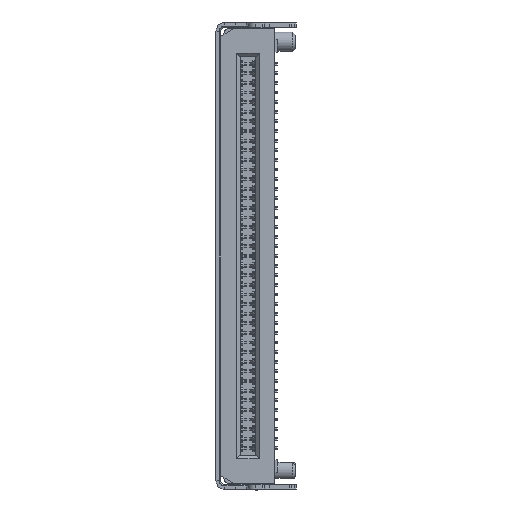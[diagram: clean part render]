
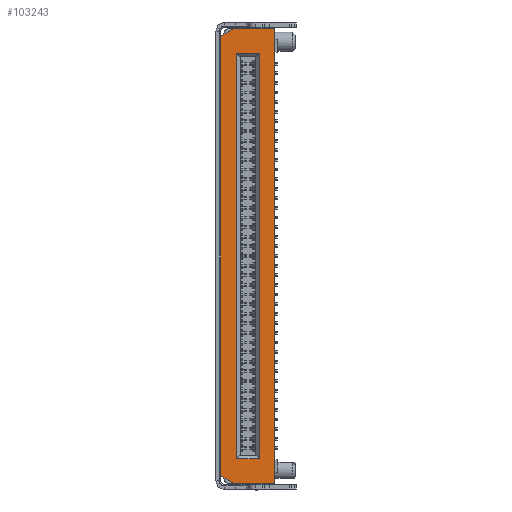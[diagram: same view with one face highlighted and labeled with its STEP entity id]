
A CAD part, left-side view. The second image highlights one B-rep face of the part: STEP entity #103243.
In plain terms, the highlighted planar face has unit normal (-1, 0, 0).
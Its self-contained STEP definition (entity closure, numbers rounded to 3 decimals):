
#1860=DIRECTION('',(0.,0.,1.));
#1861=VECTOR('',#1860,27.4);
#1862=CARTESIAN_POINT('',(-4.4,1.075,-13.7));
#1863=LINE('',#1862,#1861);
#15625=DIRECTION('',(0.,-0.848,0.53));
#15626=VECTOR('',#15625,0.943);
#15627=CARTESIAN_POINT('',(-4.4,1.075,13.7));
#15628=LINE('',#15627,#15626);
#15629=DIRECTION('',(0.,0.848,0.53));
#15630=VECTOR('',#15629,0.943);
#15631=CARTESIAN_POINT('',(-4.4,0.275,-14.2));
#15632=LINE('',#15631,#15630);
#15657=DIRECTION('',(0.,-1.,0.));
#15658=VECTOR('',#15657,2.575);
#15659=CARTESIAN_POINT('',(-4.4,0.275,14.2));
#15660=LINE('',#15659,#15658);
#15699=DIRECTION('',(0.,0.,-1.));
#15700=VECTOR('',#15699,28.4);
#15701=CARTESIAN_POINT('',(-4.4,-2.3,14.2));
#15702=LINE('',#15701,#15700);
#15811=DIRECTION('',(0.,1.,0.));
#15812=VECTOR('',#15811,2.575);
#15813=CARTESIAN_POINT('',(-4.4,-2.3,-14.2));
#15814=LINE('',#15813,#15812);
#19026=DIRECTION('',(0.,0.,-1.));
#19027=VECTOR('',#19026,25.3);
#19028=CARTESIAN_POINT('',(-4.4,0.075,12.65));
#19029=LINE('',#19028,#19027);
#19034=DIRECTION('',(0.,-1.,0.));
#19035=VECTOR('',#19034,1.4);
#19036=CARTESIAN_POINT('',(-4.4,0.075,-12.65));
#19037=LINE('',#19036,#19035);
#19050=DIRECTION('',(0.,0.,1.));
#19051=VECTOR('',#19050,25.3);
#19052=CARTESIAN_POINT('',(-4.4,-1.325,-12.65));
#19053=LINE('',#19052,#19051);
#19058=DIRECTION('',(0.,1.,0.));
#19059=VECTOR('',#19058,1.4);
#19060=CARTESIAN_POINT('',(-4.4,-1.325,12.65));
#19061=LINE('',#19060,#19059);
#63462=CARTESIAN_POINT('',(-4.4,1.075,-13.7));
#63463=CARTESIAN_POINT('',(-4.4,1.075,13.7));
#63464=VERTEX_POINT('',#63462);
#63465=VERTEX_POINT('',#63463);
#63466=CARTESIAN_POINT('',(-4.4,0.275,-14.2));
#63467=VERTEX_POINT('',#63466);
#63468=CARTESIAN_POINT('',(-4.4,-2.3,-14.2));
#63469=VERTEX_POINT('',#63468);
#63470=CARTESIAN_POINT('',(-4.4,-2.3,14.2));
#63471=VERTEX_POINT('',#63470);
#63472=CARTESIAN_POINT('',(-4.4,0.275,14.2));
#63473=VERTEX_POINT('',#63472);
#63474=CARTESIAN_POINT('',(-4.4,0.075,12.65));
#63475=CARTESIAN_POINT('',(-4.4,0.075,-12.65));
#63476=VERTEX_POINT('',#63474);
#63477=VERTEX_POINT('',#63475);
#63478=CARTESIAN_POINT('',(-4.4,-1.325,12.65));
#63479=VERTEX_POINT('',#63478);
#63480=CARTESIAN_POINT('',(-4.4,-1.325,-12.65));
#63481=VERTEX_POINT('',#63480);
#103216=CARTESIAN_POINT('',(-4.4,-0.613,0.));
#103217=DIRECTION('',(1.,0.,0.));
#103218=DIRECTION('',(0.,0.,-1.));
#103219=AXIS2_PLACEMENT_3D('',#103216,#103217,#103218);
#103220=PLANE('',#103219);
#103221=ORIENTED_EDGE('',*,*,#75667,.T.);
#103223=ORIENTED_EDGE('',*,*,#103222,.T.);
#103225=ORIENTED_EDGE('',*,*,#103224,.T.);
#103227=ORIENTED_EDGE('',*,*,#103226,.T.);
#103229=ORIENTED_EDGE('',*,*,#103228,.T.);
#103230=ORIENTED_EDGE('',*,*,#103201,.T.);
#103231=EDGE_LOOP('',(#103221,#103223,#103225,#103227,#103229,#103230));
#103232=FACE_OUTER_BOUND('',#103231,.F.);
#103234=ORIENTED_EDGE('',*,*,#103233,.T.);
#103236=ORIENTED_EDGE('',*,*,#103235,.T.);
#103238=ORIENTED_EDGE('',*,*,#103237,.T.);
#103240=ORIENTED_EDGE('',*,*,#103239,.T.);
#103241=EDGE_LOOP('',(#103234,#103236,#103238,#103240));
#103242=FACE_BOUND('',#103241,.F.);
#75667=EDGE_CURVE('',#63464,#63465,#1863,.T.);
#103201=EDGE_CURVE('',#63467,#63464,#15632,.T.);
#103222=EDGE_CURVE('',#63465,#63473,#15628,.T.);
#103224=EDGE_CURVE('',#63473,#63471,#15660,.T.);
#103226=EDGE_CURVE('',#63471,#63469,#15702,.T.);
#103228=EDGE_CURVE('',#63469,#63467,#15814,.T.);
#103233=EDGE_CURVE('',#63476,#63477,#19029,.T.);
#103235=EDGE_CURVE('',#63477,#63481,#19037,.T.);
#103237=EDGE_CURVE('',#63481,#63479,#19053,.T.);
#103239=EDGE_CURVE('',#63479,#63476,#19061,.T.);
#103243=ADVANCED_FACE('',(#103232,#103242),#103220,.F.);
